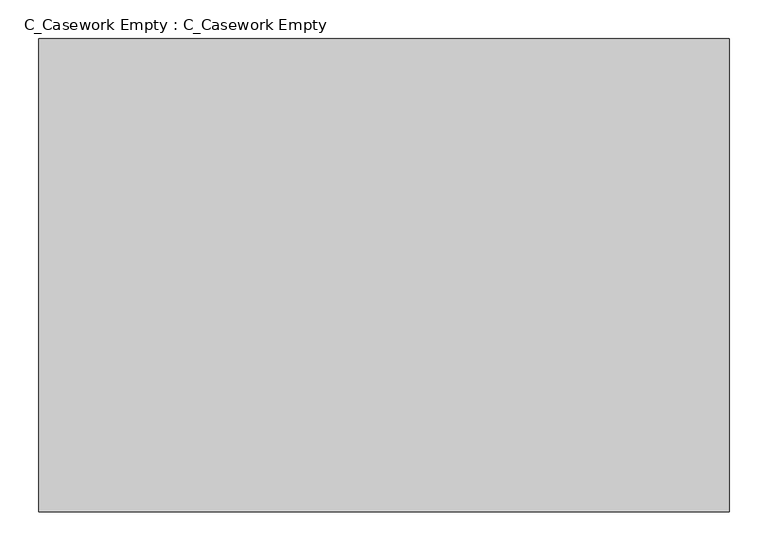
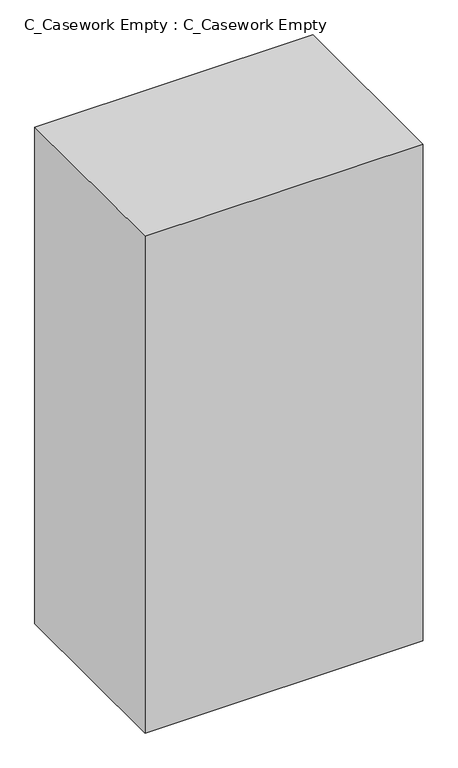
"""IFC4 building model written with IfcOpenShell, lengths in millimetres: furniture geometry, C_Casework Empty : C_Casework Empty."""

import ifcopenshell
import ifcopenshell.guid

model = None  # the IFC model being written
_history = None  # IfcOwnerHistory: only IFC2X3 demands one
_inside = {}  # id of a spatial element -> (the spatial element, [elements in it])
_under = {}  # id of a project, library or spatial element -> (it, [spatial elements below it])
_declared = {}  # id of a project -> (the project, [libraries it declares])
_typed = {}  # id of a type object -> (the type object, [elements of that type])
_made_of = {}  # id of a material, layer set ... -> (it, [elements and type objects made of it])


def new_model(schema):
    """Start an empty IFC model of exactly this schema.

    Asked for "IFC4X3", IfcOpenShell would pick the latest addendum, in which some entities
    have other attributes; the version numbers below select the first issue.
    IFC2X3 requires an IfcOwnerHistory on every rooted entity: one is made here for all.
    """
    global model, _history
    if schema == "IFC4X3":
        model = ifcopenshell.file(schema_version=(4, 3, 0, 0))
    else:
        model = ifcopenshell.file(schema=schema)
    _inside.clear()
    _under.clear()
    _declared.clear()
    _typed.clear()
    _made_of.clear()
    _history = None
    if model.schema == "IFC2X3":
        org = make("IfcOrganization", Name="unknown")
        user = make(
            "IfcPersonAndOrganization",
            ThePerson=make("IfcPerson", FamilyName="unknown"),
            TheOrganization=org,
        )
        app = make(
            "IfcApplication",
            ApplicationDeveloper=org,
            Version="unknown",
            ApplicationFullName="unknown",
            ApplicationIdentifier="unknown",
        )
        _history = make(
            "IfcOwnerHistory",
            OwningUser=user,
            OwningApplication=app,
            ChangeAction="ADDED",
            CreationDate=0,
        )
    return model


def make(cls, **values):
    """One entity of the class cls with the attributes given. An attribute that is None is left unset."""
    return model.create_entity(
        cls, **{name: value for name, value in values.items() if value is not None}
    )


def rooted(cls, **values):
    """An entity with a GlobalId (a new one), such as an element, a storey or a relation."""
    return make(cls, GlobalId=ifcopenshell.guid.new(), OwnerHistory=_history, **values)


def si_unit(unit_type, name, prefix=None):
    """IfcSIUnit, for example si_unit("LENGTHUNIT", "METRE", prefix="MILLI")."""
    return make("IfcSIUnit", UnitType=unit_type, Prefix=prefix, Name=name)


def assignment(units):
    """IfcUnitAssignment: the units of a project."""
    return None if units is None else make("IfcUnitAssignment", Units=units)


def point(xyz):
    """IfcCartesianPoint."""
    return None if xyz is None else make("IfcCartesianPoint", Coordinates=xyz)


def direction(xyz):
    """IfcDirection."""
    return None if xyz is None else make("IfcDirection", DirectionRatios=xyz)


def frame(location, z_axis=None, x_axis=None):
    """IfcAxis2Placement3D, a coordinate frame: its origin and axes. An axis left out is left unset."""
    return make(
        "IfcAxis2Placement3D",
        Location=point(location),
        Axis=direction(z_axis),
        RefDirection=direction(x_axis),
    )


def origin():
    """The frame at (0, 0, 0) with its axes left unset."""
    return frame((0.0, 0.0, 0.0))


def place(relative_to, where):
    """IfcLocalPlacement: puts the frame where relative to a parent placement (None: the world)."""
    return make(
        "IfcLocalPlacement", PlacementRelTo=relative_to, RelativePlacement=where
    )


def context(
    kind, dimensions, precision=None, world=None, true_north=None, identifier=None
):
    """IfcGeometricRepresentationContext, for example the 3D "Model" context."""
    return make(
        "IfcGeometricRepresentationContext",
        ContextIdentifier=identifier,
        ContextType=kind,
        CoordinateSpaceDimension=dimensions,
        Precision=precision,
        WorldCoordinateSystem=world,
        TrueNorth=true_north,
    )


def project(units=None, contexts=None):
    """IfcProject with its units and contexts."""
    return rooted(
        "IfcProject",
        Name="project",
        RepresentationContexts=contexts,
        UnitsInContext=assignment(units),
    )


def spatial(cls, under=None, at=None, **own):
    """A site, building, storey or space (cls), placed at a placement, below another one or the project."""
    s = rooted(cls, ObjectPlacement=at, **own)
    if under is not None:
        _under.setdefault(under.id(), (under, []))[1].append(s)
    return s


def faces_of(points, faces, orient=None, outer=None):
    """IfcFace entities. A face is a list of loops; a loop is a list of indices into points, from 0.

    orient and outer hold one flag for each loop. By default every Orientation is true, the
    first loop of a face is its IfcFaceOuterBound and the others are IfcFaceBound.
    """
    made = []
    for i, loops in enumerate(faces):
        bounds = []
        for j, loop in enumerate(loops):
            is_outer = j == 0 if outer is None else outer[i][j]
            bounds.append(
                make(
                    "IfcFaceOuterBound" if is_outer else "IfcFaceBound",
                    Bound=make("IfcPolyLoop", Polygon=[points[k] for k in loop]),
                    Orientation=True if orient is None else orient[i][j],
                )
            )
        made.append(make("IfcFace", Bounds=bounds))
    return made


def faceted_brep(points, faces, orient=None, outer=None, voids=None):
    """IfcFacetedBrep: a solid bounded by flat faces; with voids (closed shells), ...WithVoids."""
    shared = [point(p) for p in points]
    hull = make("IfcClosedShell", CfsFaces=faces_of(shared, faces, orient, outer))
    if voids is None:
        return make("IfcFacetedBrep", Outer=hull)
    return make(
        "IfcFacetedBrepWithVoids",
        Outer=hull,
        Voids=[
            make(cls, CfsFaces=faces_of(shared, fs, o, b)) for cls, fs, o, b in voids
        ],
    )


def shape(context_of_items, identifier, shape_type, items):
    """IfcShapeRepresentation: the items that make up one representation, for example the "Body"."""
    return make(
        "IfcShapeRepresentation",
        ContextOfItems=context_of_items,
        RepresentationIdentifier=identifier,
        RepresentationType=shape_type,
        Items=items,
    )


def source(mapping_origin, context_of_items, identifier, shape_type, items):
    """IfcRepresentationMap: a shape defined once, which mapped items show again and again."""
    return make(
        "IfcRepresentationMap",
        MappingOrigin=mapping_origin,
        MappedRepresentation=shape(context_of_items, identifier, shape_type, items),
    )


def transform(
    local_origin,
    x_axis=None,
    y_axis=None,
    z_axis=None,
    scale=None,
    scale2=None,
    scale3=None,
    uniform=True,
):
    """IfcCartesianTransformationOperator3D, or its non-uniform kind. x_axis, y_axis, z_axis: its Axis1, 2, 3."""
    if uniform:
        return make(
            "IfcCartesianTransformationOperator3D",
            Axis1=direction(x_axis),
            Axis2=direction(y_axis),
            LocalOrigin=point(local_origin),
            Scale=scale,
            Axis3=direction(z_axis),
        )
    return make(
        "IfcCartesianTransformationOperator3DnonUniform",
        Axis1=direction(x_axis),
        Axis2=direction(y_axis),
        LocalOrigin=point(local_origin),
        Scale=scale,
        Axis3=direction(z_axis),
        Scale2=scale2,
        Scale3=scale3,
    )


def mapped(mapping_source, mapping_target):
    """IfcMappedItem: shows the shape of a source again, moved by a transform."""
    return make(
        "IfcMappedItem", MappingSource=mapping_source, MappingTarget=mapping_target
    )


def made_of(thing, what):
    """Note that an element or type object is made of a material, layer set ...; save() writes the relation."""
    if what is not None:
        _made_of.setdefault(what.id(), (what, []))[1].append(thing)
    return thing


def element(
    cls,
    number,
    at=None,
    inside=None,
    cuts=None,
    type_object=None,
    material=None,
    context=None,
    identifier="Body",
    shape_type=None,
    held_by="IfcProductDefinitionShape",
    body=None,
    shapes=None,
    **own,
):
    """One element of the class cls, such as IfcWall. Its Tag is "e" and its number.

    at: its placement. inside: the storey or other place that contains it. cuts: it is an
    opening in that element (IfcRelVoidsElement). A single representation is given by context,
    identifier, shape_type and body (its items); several are given by shapes. held_by: the class
    of the entity that holds the representations. save() writes the other relations.
    """
    e = rooted(cls, Tag="e%d" % number, ObjectPlacement=at, **own)
    if body is not None:
        shapes = [shape(context, identifier, shape_type, body)]
    if shapes is not None:
        e.Representation = make(held_by, Representations=shapes)
    if inside is not None:
        _inside.setdefault(inside.id(), (inside, []))[1].append(e)
    if cuts is not None:
        rooted(
            "IfcRelVoidsElement", RelatingBuildingElement=cuts, RelatedOpeningElement=e
        )
    if type_object is not None:
        _typed.setdefault(type_object.id(), (type_object, []))[1].append(e)
    return made_of(e, material)


def aggregate(whole, parts):
    """IfcRelAggregates: a whole, such as a stair, and the parts it consists of."""
    return rooted("IfcRelAggregates", RelatingObject=whole, RelatedObjects=parts)


def save(model, path):
    """Write the relations noted so far, then the file.

    IfcRelAggregates (storeys below a building ...), IfcRelContainedInSpatialStructure (elements
    in a storey), IfcRelDefinesByType, IfcRelAssociatesMaterial and IfcRelDeclares: one each for
    every whole, place, type object, material and project.
    """
    for whole, parts in _under.values():
        aggregate(whole, parts)
    for where, things in _inside.values():
        rooted(
            "IfcRelContainedInSpatialStructure",
            RelatedElements=things,
            RelatingStructure=where,
        )
    for kind, things in _typed.values():
        rooted("IfcRelDefinesByType", RelatedObjects=things, RelatingType=kind)
    for what, things in _made_of.values():
        rooted("IfcRelAssociatesMaterial", RelatedObjects=things, RelatingMaterial=what)
    for by, libraries in _declared.values():
        rooted("IfcRelDeclares", RelatingContext=by, RelatedDefinitions=libraries)
    model.write(path)


def c_casework_empty_c_casework_empty_296c2951(model_context):
    return source(origin(), model_context, "Body", "Brep", [
        faceted_brep([(444.5, 609.6, 0.0), (-444.5, 609.6, 0.0), (-444.5, 609.6, 1677.9875), (444.5, 609.6, 1677.9875), (-419.1, 609.6, 1652.5875), (-419.1, 609.6, 25.4), (419.1, 609.6, 25.4), (419.1, 609.6, 1652.5875), (444.5, 0.0, 1677.9875), (444.5, 0.0, 0.0), (-444.5, 0.0, 1677.9875), (-444.5, 0.0, 0.0), (419.1, 25.4, 1652.5875), (-419.1, 25.4, 1652.5875), (419.1, 25.4, 25.4), (-419.1, 25.4, 25.4)], [[[0, 1, 2, 3], [4, 5, 6, 7]], [[0, 3, 8, 9]], [[8, 3, 2, 10]], [[10, 2, 1, 11]], [[11, 1, 0, 9]], [[4, 7, 12, 13]], [[7, 6, 14, 12]], [[6, 5, 15, 14]], [[5, 4, 13, 15]], [[8, 10, 11, 9]], [[13, 12, 14, 15]]]),
    ])


if __name__ == "__main__":
    model = new_model("IFC4")
    model_context = context("Model", 3, world=origin())
    ifc_project = project(units=[si_unit("LENGTHUNIT", "METRE", prefix="MILLI")], contexts=[model_context])
    site = spatial("IfcSite", under=ifc_project)
    building = spatial("IfcBuilding", under=site)
    placement = place(None, origin())
    c_casework_empty_c_casework_empty_shape = c_casework_empty_c_casework_empty_296c2951(model_context)
    element("IfcFurniture", 1, ObjectType="C_Casework Empty : C_Casework Empty", at=placement, inside=building, context=model_context, shape_type="MappedRepresentation", body=[
        mapped(c_casework_empty_c_casework_empty_shape, transform((0.0, 0.0, 0.0), x_axis=(1.0, 0.0, 0.0), y_axis=(0.0, 1.0, 0.0), z_axis=(0.0, 0.0, 1.0))),
    ])
    save(model, "model.ifc")
